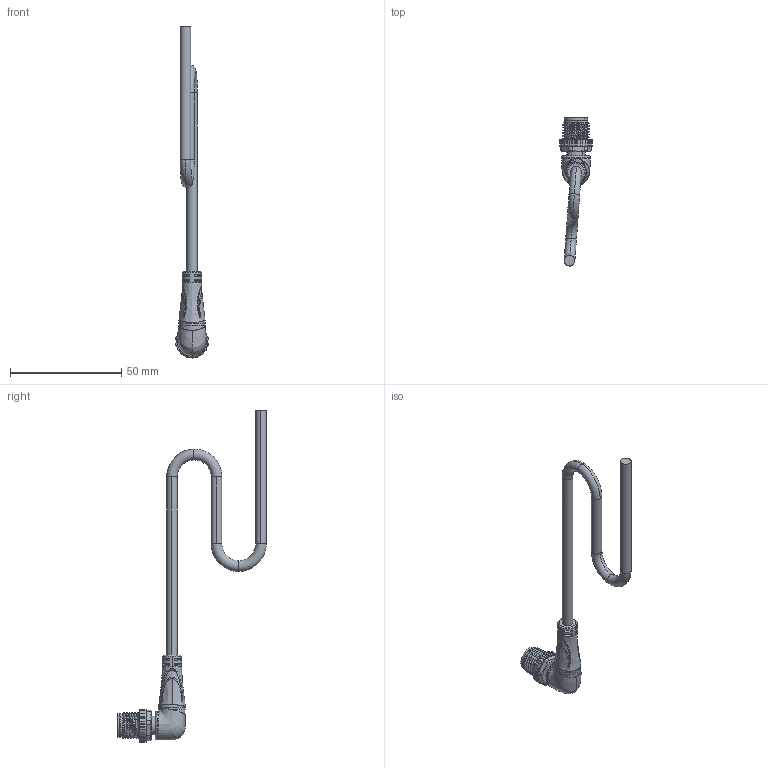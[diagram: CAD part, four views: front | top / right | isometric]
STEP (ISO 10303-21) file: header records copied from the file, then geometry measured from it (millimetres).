
FILE_DESCRIPTION (( 'STEP AP214' ), '1' );
FILE_NAME ('M12俔芛5P鼠傷.STEP', '2024-12-20T10:13:10', ( 'Windows User' ), ( 'P R C' ), 'SwSTEP 2.0', 'SolidWorks 2023', '' );
FILE_SCHEMA (( 'AUTOMOTIVE_DESIGN' ));
Length unit declared in the file: millimetre
Products named in the file (6): SD1705308-M12-5P公端插座-A0; SD1705290-M12公端插针-A1; 导线_φ4.8; M12弯头5P公端; M12-90°包胶; SD1100808-M12滚花螺栓（外螺纹对边13）-A0
Assembly tree (9 placements, depth 2):
  M12弯头5P公端
    导线_φ4.8
    M12-90°包胶
    SD1100808-M12滚花螺栓（外螺纹对边13）-A0
    SD1705290-M12公端插针-A1  x5
    SD1705308-M12-5P公端插座-A0
Bounding box: 14.7 x 66.64 x 148.9 mm (x, y, z)
Volume: 9244.3 mm3; surface area: 8808.9 mm2
Topology: 4 solids, 14 shells, 1458 faces, 3915 edges, 2491 vertices
Faces by surface type: plane 637, cylinder 481, cone 141, bspline 96, torus 88, sphere 15
Entity records: 38922 total; most frequent: CARTESIAN_POINT 20866, ORIENTED_EDGE 3958, DIRECTION 3571, EDGE_CURVE 1989, AXIS2_PLACEMENT_3D 1377, VERTEX_POINT 1275, VECTOR 817, LINE 817
